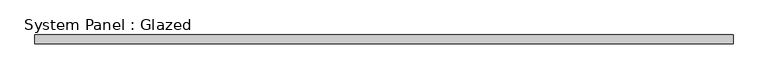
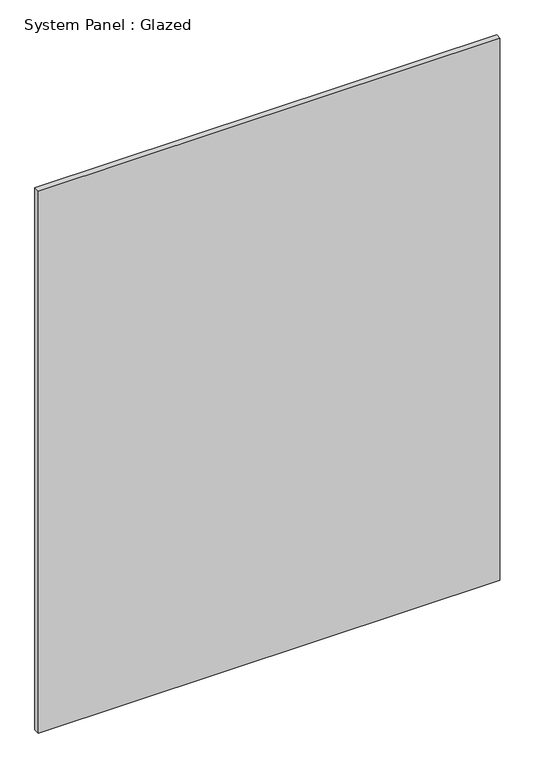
"""IFC4 building model written with IfcOpenShell, lengths in millimetres: plate geometry, System Panel : Glazed."""

import ifcopenshell
import ifcopenshell.guid

model = None  # the IFC model being written
_history = None  # IfcOwnerHistory: only IFC2X3 demands one
_inside = {}  # id of a spatial element -> (the spatial element, [elements in it])
_under = {}  # id of a project, library or spatial element -> (it, [spatial elements below it])
_declared = {}  # id of a project -> (the project, [libraries it declares])
_typed = {}  # id of a type object -> (the type object, [elements of that type])
_made_of = {}  # id of a material, layer set ... -> (it, [elements and type objects made of it])


def new_model(schema):
    """Start an empty IFC model of exactly this schema.

    Asked for "IFC4X3", IfcOpenShell would pick the latest addendum, in which some entities
    have other attributes; the version numbers below select the first issue.
    IFC2X3 requires an IfcOwnerHistory on every rooted entity: one is made here for all.
    """
    global model, _history
    if schema == "IFC4X3":
        model = ifcopenshell.file(schema_version=(4, 3, 0, 0))
    else:
        model = ifcopenshell.file(schema=schema)
    _inside.clear()
    _under.clear()
    _declared.clear()
    _typed.clear()
    _made_of.clear()
    _history = None
    if model.schema == "IFC2X3":
        org = make("IfcOrganization", Name="unknown")
        user = make(
            "IfcPersonAndOrganization",
            ThePerson=make("IfcPerson", FamilyName="unknown"),
            TheOrganization=org,
        )
        app = make(
            "IfcApplication",
            ApplicationDeveloper=org,
            Version="unknown",
            ApplicationFullName="unknown",
            ApplicationIdentifier="unknown",
        )
        _history = make(
            "IfcOwnerHistory",
            OwningUser=user,
            OwningApplication=app,
            ChangeAction="ADDED",
            CreationDate=0,
        )
    return model


def make(cls, **values):
    """One entity of the class cls with the attributes given. An attribute that is None is left unset."""
    return model.create_entity(
        cls, **{name: value for name, value in values.items() if value is not None}
    )


def rooted(cls, **values):
    """An entity with a GlobalId (a new one), such as an element, a storey or a relation."""
    return make(cls, GlobalId=ifcopenshell.guid.new(), OwnerHistory=_history, **values)


def si_unit(unit_type, name, prefix=None):
    """IfcSIUnit, for example si_unit("LENGTHUNIT", "METRE", prefix="MILLI")."""
    return make("IfcSIUnit", UnitType=unit_type, Prefix=prefix, Name=name)


def assignment(units):
    """IfcUnitAssignment: the units of a project."""
    return None if units is None else make("IfcUnitAssignment", Units=units)


def point(xyz):
    """IfcCartesianPoint."""
    return None if xyz is None else make("IfcCartesianPoint", Coordinates=xyz)


def direction(xyz):
    """IfcDirection."""
    return None if xyz is None else make("IfcDirection", DirectionRatios=xyz)


def frame(location, z_axis=None, x_axis=None):
    """IfcAxis2Placement3D, a coordinate frame: its origin and axes. An axis left out is left unset."""
    return make(
        "IfcAxis2Placement3D",
        Location=point(location),
        Axis=direction(z_axis),
        RefDirection=direction(x_axis),
    )


def origin():
    """The frame at (0, 0, 0) with its axes left unset."""
    return frame((0.0, 0.0, 0.0))


def origin_with_axes():
    """The frame at (0, 0, 0) with the z axis (0, 0, 1) and the x axis (1, 0, 0) written out."""
    return frame((0.0, 0.0, 0.0), z_axis=(0.0, 0.0, 1.0), x_axis=(1.0, 0.0, 0.0))


def place(relative_to, where):
    """IfcLocalPlacement: puts the frame where relative to a parent placement (None: the world)."""
    return make(
        "IfcLocalPlacement", PlacementRelTo=relative_to, RelativePlacement=where
    )


def context(
    kind, dimensions, precision=None, world=None, true_north=None, identifier=None
):
    """IfcGeometricRepresentationContext, for example the 3D "Model" context."""
    return make(
        "IfcGeometricRepresentationContext",
        ContextIdentifier=identifier,
        ContextType=kind,
        CoordinateSpaceDimension=dimensions,
        Precision=precision,
        WorldCoordinateSystem=world,
        TrueNorth=true_north,
    )


def project(units=None, contexts=None):
    """IfcProject with its units and contexts."""
    return rooted(
        "IfcProject",
        Name="project",
        RepresentationContexts=contexts,
        UnitsInContext=assignment(units),
    )


def spatial(cls, under=None, at=None, **own):
    """A site, building, storey or space (cls), placed at a placement, below another one or the project."""
    s = rooted(cls, ObjectPlacement=at, **own)
    if under is not None:
        _under.setdefault(under.id(), (under, []))[1].append(s)
    return s


def polyline(points):
    """IfcPolyline through the points."""
    return make("IfcPolyline", Points=[point(p) for p in points])


def outline(outer, holes=None, kind="AREA"):
    """IfcArbitraryClosedProfileDef: a profile drawn as a closed curve; with holes, ...WithVoids."""
    if holes is None:
        return make("IfcArbitraryClosedProfileDef", ProfileType=kind, OuterCurve=outer)
    return make(
        "IfcArbitraryProfileDefWithVoids",
        ProfileType=kind,
        OuterCurve=outer,
        InnerCurves=holes,
    )


def extrude(swept, where, along, depth):
    """IfcExtrudedAreaSolid: the profile swept, set in the frame where, extruded along a direction by depth."""
    return make(
        "IfcExtrudedAreaSolid",
        SweptArea=swept,
        Position=where,
        ExtrudedDirection=direction(along),
        Depth=depth,
    )


def shape(context_of_items, identifier, shape_type, items):
    """IfcShapeRepresentation: the items that make up one representation, for example the "Body"."""
    return make(
        "IfcShapeRepresentation",
        ContextOfItems=context_of_items,
        RepresentationIdentifier=identifier,
        RepresentationType=shape_type,
        Items=items,
    )


def source(mapping_origin, context_of_items, identifier, shape_type, items):
    """IfcRepresentationMap: a shape defined once, which mapped items show again and again."""
    return make(
        "IfcRepresentationMap",
        MappingOrigin=mapping_origin,
        MappedRepresentation=shape(context_of_items, identifier, shape_type, items),
    )


def transform(
    local_origin,
    x_axis=None,
    y_axis=None,
    z_axis=None,
    scale=None,
    scale2=None,
    scale3=None,
    uniform=True,
):
    """IfcCartesianTransformationOperator3D, or its non-uniform kind. x_axis, y_axis, z_axis: its Axis1, 2, 3."""
    if uniform:
        return make(
            "IfcCartesianTransformationOperator3D",
            Axis1=direction(x_axis),
            Axis2=direction(y_axis),
            LocalOrigin=point(local_origin),
            Scale=scale,
            Axis3=direction(z_axis),
        )
    return make(
        "IfcCartesianTransformationOperator3DnonUniform",
        Axis1=direction(x_axis),
        Axis2=direction(y_axis),
        LocalOrigin=point(local_origin),
        Scale=scale,
        Axis3=direction(z_axis),
        Scale2=scale2,
        Scale3=scale3,
    )


def mapped(mapping_source, mapping_target):
    """IfcMappedItem: shows the shape of a source again, moved by a transform."""
    return make(
        "IfcMappedItem", MappingSource=mapping_source, MappingTarget=mapping_target
    )


def made_of(thing, what):
    """Note that an element or type object is made of a material, layer set ...; save() writes the relation."""
    if what is not None:
        _made_of.setdefault(what.id(), (what, []))[1].append(thing)
    return thing


def element(
    cls,
    number,
    at=None,
    inside=None,
    cuts=None,
    type_object=None,
    material=None,
    context=None,
    identifier="Body",
    shape_type=None,
    held_by="IfcProductDefinitionShape",
    body=None,
    shapes=None,
    **own,
):
    """One element of the class cls, such as IfcWall. Its Tag is "e" and its number.

    at: its placement. inside: the storey or other place that contains it. cuts: it is an
    opening in that element (IfcRelVoidsElement). A single representation is given by context,
    identifier, shape_type and body (its items); several are given by shapes. held_by: the class
    of the entity that holds the representations. save() writes the other relations.
    """
    e = rooted(cls, Tag="e%d" % number, ObjectPlacement=at, **own)
    if body is not None:
        shapes = [shape(context, identifier, shape_type, body)]
    if shapes is not None:
        e.Representation = make(held_by, Representations=shapes)
    if inside is not None:
        _inside.setdefault(inside.id(), (inside, []))[1].append(e)
    if cuts is not None:
        rooted(
            "IfcRelVoidsElement", RelatingBuildingElement=cuts, RelatedOpeningElement=e
        )
    if type_object is not None:
        _typed.setdefault(type_object.id(), (type_object, []))[1].append(e)
    return made_of(e, material)


def aggregate(whole, parts):
    """IfcRelAggregates: a whole, such as a stair, and the parts it consists of."""
    return rooted("IfcRelAggregates", RelatingObject=whole, RelatedObjects=parts)


def save(model, path):
    """Write the relations noted so far, then the file.

    IfcRelAggregates (storeys below a building ...), IfcRelContainedInSpatialStructure (elements
    in a storey), IfcRelDefinesByType, IfcRelAssociatesMaterial and IfcRelDeclares: one each for
    every whole, place, type object, material and project.
    """
    for whole, parts in _under.values():
        aggregate(whole, parts)
    for where, things in _inside.values():
        rooted(
            "IfcRelContainedInSpatialStructure",
            RelatedElements=things,
            RelatingStructure=where,
        )
    for kind, things in _typed.values():
        rooted("IfcRelDefinesByType", RelatedObjects=things, RelatingType=kind)
    for what, things in _made_of.values():
        rooted("IfcRelAssociatesMaterial", RelatedObjects=things, RelatingMaterial=what)
    for by, libraries in _declared.values():
        rooted("IfcRelDeclares", RelatingContext=by, RelatedDefinitions=libraries)
    model.write(path)


def system_panel_glazed_77f58310(model_context):
    return source(origin(), model_context, "Body", "SweptSolid", [
        extrude(outline(polyline([(989.2021654, 19.05), (-989.2021654, 19.05), (-989.2021654, 44.45), (989.2021654, 44.45), (989.2021654, 19.05)])), origin_with_axes(), (0.0, 0.0, 1.0), 2455.3333333),
    ])


if __name__ == "__main__":
    model = new_model("IFC4")
    model_context = context("Model", 3, world=origin())
    ifc_project = project(units=[si_unit("LENGTHUNIT", "METRE", prefix="MILLI")], contexts=[model_context])
    site = spatial("IfcSite", under=ifc_project)
    building = spatial("IfcBuilding", under=site)
    placement = place(None, origin())
    system_panel_glazed_shape = system_panel_glazed_77f58310(model_context)
    element("IfcPlate", 1, ObjectType="System Panel : Glazed", at=placement, inside=building, context=model_context, shape_type="MappedRepresentation", body=[
        mapped(system_panel_glazed_shape, transform((0.0, 0.0, 0.0), x_axis=(1.0, 0.0, 0.0), y_axis=(0.0, 1.0, 0.0), z_axis=(0.0, 0.0, 1.0))),
    ])
    save(model, "model.ifc")
